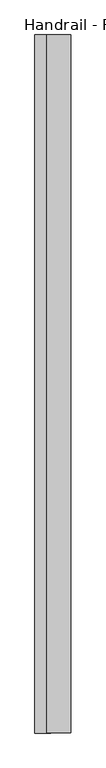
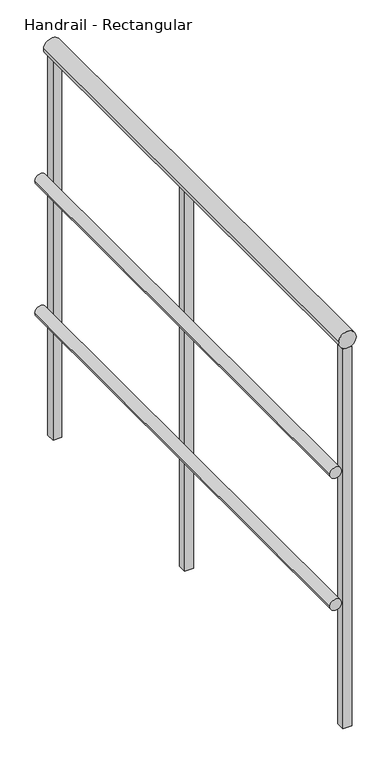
"""IFC4 building model written with IfcOpenShell, lengths in millimetres: railing geometry, Handrail - Rectangular."""

from ifc_helpers import new_model, si_unit, point, frame, frame_2d, origin, place, context, project, spatial, polyline, circle_curve, trimmed, segment, composite_curve, outline, extrude, source, transform, mapped, element, save


def handrail_rectangular_2b43632d(model_context):
    return source(origin(), model_context, "Body", "SweptSolid", [
        extrude(outline(composite_curve([segment(trimmed(circle_curve(frame_2d((9740.9, -18476.8839563)), 12.7), [point((9740.9, -18489.5839563))], [point((9740.9, -18464.1839563))], False, "CARTESIAN"), True, "CONTINUOUS"), segment(trimmed(circle_curve(frame_2d((9740.9, -18476.8839563)), 12.7), [point((9740.9, -18464.1839563))], [point((9740.9, -18489.5839563))], False, "CARTESIAN"), True, "CONTINUOUS")], self_intersect=False)), frame((0.0, -35349.9683133, 0.0), z_axis=(0.0, 1.0, 0.0), x_axis=(0.0, 0.0, 1.0)), (0.0, 0.0, 1.0), 1117.6),
        extrude(outline(composite_curve([segment(trimmed(circle_curve(frame_2d((9436.1, -18476.8839563)), 12.7), [point((9436.1, -18489.5839563))], [point((9436.1, -18464.1839563))], False, "CARTESIAN"), True, "CONTINUOUS"), segment(trimmed(circle_curve(frame_2d((9436.1, -18476.8839563)), 12.7), [point((9436.1, -18464.1839563))], [point((9436.1, -18489.5839563))], False, "CARTESIAN"), True, "CONTINUOUS")], self_intersect=False)), frame((0.0, -35349.9683133, 0.0), z_axis=(0.0, 1.0, 0.0), x_axis=(0.0, 0.0, 1.0)), (0.0, 0.0, 1.0), 1117.6),
        extrude(outline(composite_curve([segment(trimmed(circle_curve(frame_2d((10039.35, -18451.4839563)), 19.05), [point((10039.35, -18470.5339563))], [point((10039.35, -18432.4339563))], False, "CARTESIAN"), True, "CONTINUOUS"), segment(trimmed(circle_curve(frame_2d((10039.35, -18451.4839563)), 19.05), [point((10039.35, -18432.4339563))], [point((10039.35, -18470.5339563))], False, "CARTESIAN"), True, "CONTINUOUS")], self_intersect=False)), frame((0.0, -35349.9683133, 0.0), z_axis=(0.0, 1.0, 0.0), x_axis=(0.0, 0.0, 1.0)), (0.0, 0.0, 1.0), 1117.6),
        extrude(outline(polyline([(-18441.9589563, -34749.8933133), (-18461.0089563, -34749.8933133), (-18461.0089563, -34730.8433133), (-18441.9589563, -34730.8433133), (-18441.9589563, -34749.8933133)])), frame((0.0, 0.0, 9144.0), z_axis=(0.0, 0.0, 1.0), x_axis=(1.0, 0.0, 0.0)), (0.0, 0.0, 1.0), 876.3),
        extrude(outline(polyline([(-18441.9589563, -34251.4183133), (-18461.0089563, -34251.4183133), (-18461.0089563, -34232.3683133), (-18441.9589563, -34232.3683133), (-18441.9589563, -34251.4183133)])), frame((0.0, 0.0, 9144.0), z_axis=(0.0, 0.0, 1.0), x_axis=(1.0, 0.0, 0.0)), (0.0, 0.0, 1.0), 876.3),
        extrude(outline(polyline([(-18441.9589563, -35349.9683133), (-18461.0089563, -35349.9683133), (-18461.0089563, -35330.9183133), (-18441.9589563, -35330.9183133), (-18441.9589563, -35349.9683133)])), frame((0.0, 0.0, 9144.0), z_axis=(0.0, 0.0, 1.0), x_axis=(1.0, 0.0, 0.0)), (0.0, 0.0, 1.0), 876.3),
    ])


if __name__ == "__main__":
    model = new_model("IFC4")
    model_context = context("Model", 3, world=origin())
    ifc_project = project(units=[si_unit("LENGTHUNIT", "METRE", prefix="MILLI")], contexts=[model_context])
    site = spatial("IfcSite", under=ifc_project)
    building = spatial("IfcBuilding", under=site)
    placement = place(None, origin())
    handrail_rectangular_shape = handrail_rectangular_2b43632d(model_context)
    element("IfcRailing", 1, ObjectType="Handrail - Rectangular", at=placement, inside=building, context=model_context, shape_type="MappedRepresentation", body=[
        mapped(handrail_rectangular_shape, transform((0.0, 0.0, 0.0), x_axis=(1.0, 0.0, 0.0), y_axis=(0.0, 1.0, 0.0), z_axis=(0.0, 0.0, 1.0))),
    ])
    save(model, "model.ifc")
